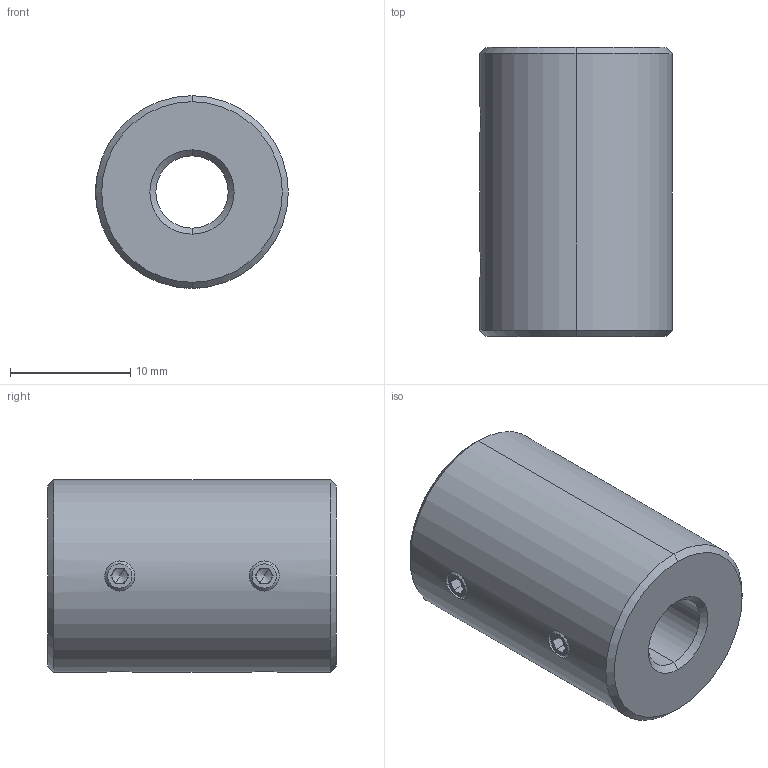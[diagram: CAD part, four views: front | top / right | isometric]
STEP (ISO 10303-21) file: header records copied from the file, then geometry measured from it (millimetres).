
FILE_DESCRIPTION (( 'STEP AP214' ), '1' );
FILE_NAME ('LL-D-D16L24-6-6.STEP', '2022-07-23T07:03:59', ( '' ), ( '' ), 'SwSTEP 2.0', 'SolidWorks 2022', '' );
FILE_SCHEMA (( 'AUTOMOTIVE_DESIGN' ));
Length unit declared in the file: millimetre
Products named in the file (1): LL-D-D16L24-6-6
Bounding box: 16 x 24 x 16 mm (x, y, z)
Volume: 4097.2 mm3; surface area: 2051.3 mm2
Topology: 1 solids, 1 shells, 110 faces, 280 edges, 172 vertices
Faces by surface type: plane 58, cone 32, cylinder 20
Entity records: 3574 total; most frequent: CARTESIAN_POINT 891, DIRECTION 566, ORIENTED_EDGE 544, EDGE_CURVE 272, AXIS2_PLACEMENT_3D 207, VERTEX_POINT 172, LINE 152, VECTOR 152
